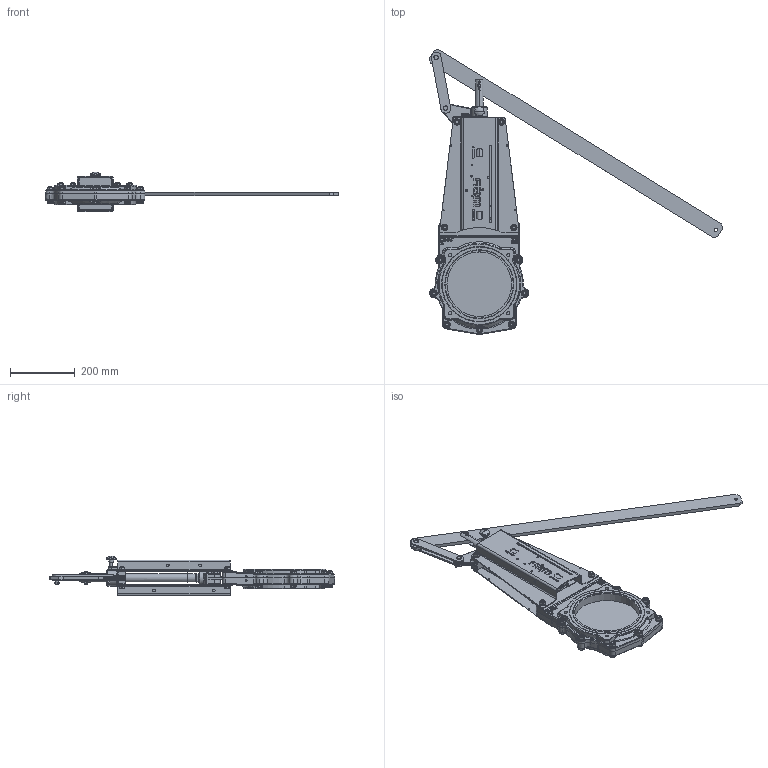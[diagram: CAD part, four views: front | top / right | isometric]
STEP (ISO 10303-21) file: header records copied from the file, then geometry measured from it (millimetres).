
FILE_DESCRIPTION (( 'STEP AP214' ), '1' );
FILE_NAME ('VGB DN 0200.STEP', '2015-09-23T09:14:18', ( 'admin' ), ( 'Hewlett-Packard Company' ), 'SwSTEP 2.0', 'SolidWorks 2013', '' );
FILE_SCHEMA (( 'AUTOMOTIVE_DESIGN' ));
Length unit declared in the file: millimetre
Products named in the file (1): VGB DN 0200
Bounding box: 909.44 x 883.15 x 123 mm (x, y, z)
Volume: 4529182.8 mm3; surface area: 968473 mm2
Topology: 63 solids, 68 shells, 3037 faces, 7257 edges, 4391 vertices
Faces by surface type: plane 1029, cylinder 779, cone 518, bspline 416, torus 289, sphere 6
Entity records: 143433 total; most frequent: CARTESIAN_POINT 41225, ORIENTED_EDGE 14446, DIRECTION 13801, EDGE_CURVE 7223, AXIS2_PLACEMENT_3D 5371, VERTEX_POINT 4391, EDGE_LOOP 3370, UNCERTAINTY_MEASURE_WITH_UNIT 3098
